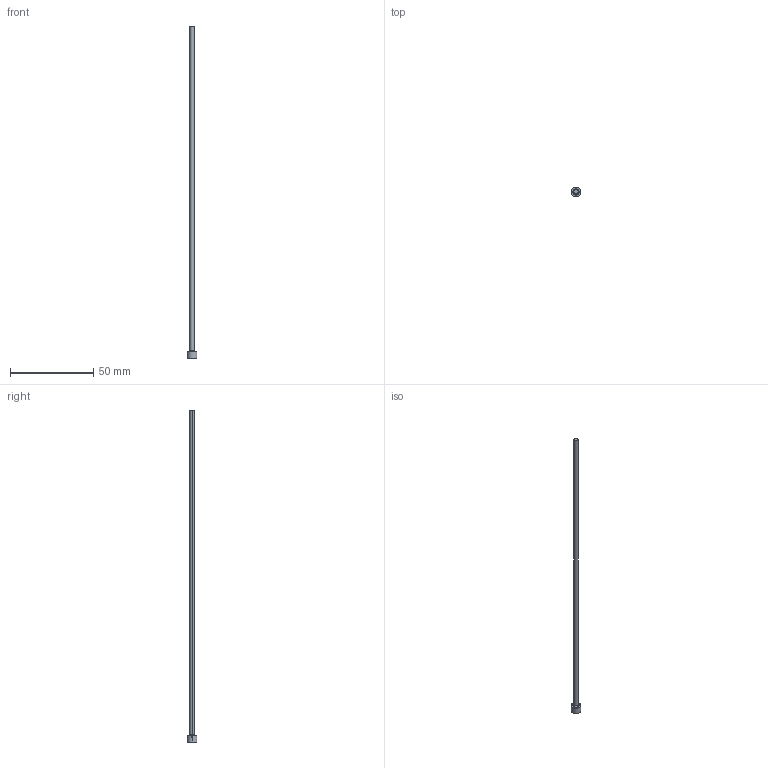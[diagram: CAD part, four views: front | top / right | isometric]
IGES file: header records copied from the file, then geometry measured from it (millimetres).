
Start section: SolidWorks IGES file using analytic representation for surfaces
Global section: file name: D:\Current\W1-2\EPH\EPH2.7-200.igs; native system: SolidWorks 2017; preprocessor: SolidWorks 2017; author: Ravi Kalvai; date: 240411.170853; units: millimetre
Bounding box: 6 x 6 x 200 mm (x, y, z)
Surface area: 1792.8 mm2 (no closed solid volume)
Topology: 0 solids, 0 shells, 9 faces, 152 edges, 152 vertices
Faces by surface type: bspline 5, revolution 4
